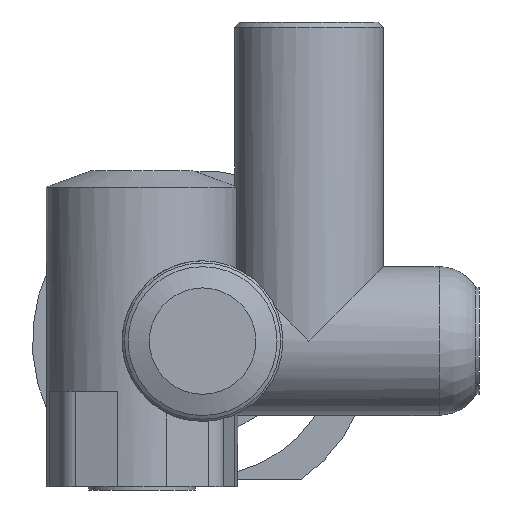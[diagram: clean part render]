
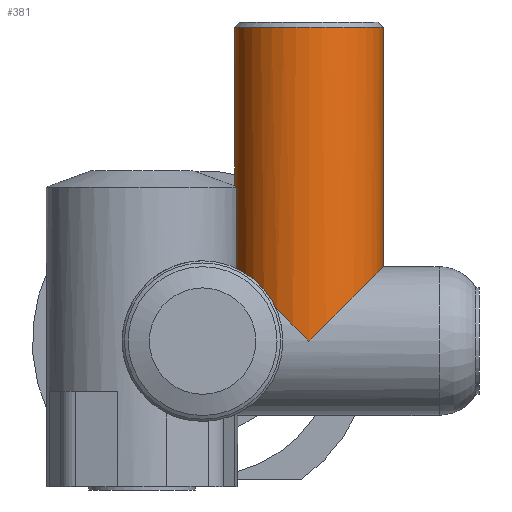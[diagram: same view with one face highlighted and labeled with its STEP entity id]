
A CAD part, front view. The second image highlights one B-rep face of the part: STEP entity #381.
In plain terms, the highlighted cylindrical face has radius 70 mm (diameter 140 mm), a full revolution.
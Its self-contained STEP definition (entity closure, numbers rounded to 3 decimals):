
#381=ADVANCED_FACE('',(#1078,#1080),#1082,.T.);
#1078=FACE_OUTER_BOUND('',#1079,.T.);
#1079=EDGE_LOOP('',(#1640));
#1080=FACE_BOUND('',#1081,.T.);
#1081=EDGE_LOOP('',(#1641,#1642,#1643,#1644,#1645,#1646,#1647));
#1082=CYLINDRICAL_SURFACE('',#1083,70.);
#1083=AXIS2_PLACEMENT_3D('',#1084,#1085,#1086);
#1084=CARTESIAN_POINT('',(100.,0.,0.));
#1085=DIRECTION('',(0.,0.,1.));
#1086=DIRECTION('',(1.,0.,0.));
#1640=ORIENTED_EDGE('',*,*,#1913,.F.);
#1641=ORIENTED_EDGE('',*,*,#1912,.T.);
#1642=ORIENTED_EDGE('',*,*,#1911,.T.);
#1643=ORIENTED_EDGE('',*,*,#1845,.T.);
#1644=ORIENTED_EDGE('',*,*,#1914,.T.);
#1645=ORIENTED_EDGE('',*,*,#1842,.T.);
#1646=ORIENTED_EDGE('',*,*,#1901,.T.);
#1647=ORIENTED_EDGE('',*,*,#1900,.T.);
#1842=EDGE_CURVE('',#2074,#2072,#2075,.T.);
#1845=EDGE_CURVE('',#2080,#2078,#2081,.F.);
#1900=EDGE_CURVE('',#2174,#2175,#2176,.T.);
#1901=EDGE_CURVE('',#2072,#2174,#2177,.F.);
#1911=EDGE_CURVE('',#2194,#2080,#2195,.F.);
#1912=EDGE_CURVE('',#2175,#2194,#2196,.T.);
#1913=EDGE_CURVE('',#2197,#2197,#2198,.T.);
#1914=EDGE_CURVE('',#2078,#2074,#2199,.T.);
#2072=VERTEX_POINT('',#2791);
#2074=VERTEX_POINT('',#2834);
#2075=LINE('',#2835,#2836);
#2078=VERTEX_POINT('',#2843);
#2080=VERTEX_POINT('',#2848);
#2081=LINE('',#2849,#2850);
#2174=VERTEX_POINT('',#3543);
#2175=VERTEX_POINT('',#3544);
#2176=(BOUNDED_CURVE()B_SPLINE_CURVE(3,
(#3545,#3546,#3547,#3548),
.UNSPECIFIED.,.F.,.F.)B_SPLINE_CURVE_WITH_KNOTS((4,4),
(0.,1.),
.UNSPECIFIED.)CURVE()GEOMETRIC_REPRESENTATION_ITEM()RATIONAL_B_SPLINE_CURVE((1.,
0.805,0.805,1.))REPRESENTATION_ITEM(''));
#2177=(BOUNDED_CURVE()B_SPLINE_CURVE(3,
(#3549,#3550,#3551,#3552),
.UNSPECIFIED.,.F.,.F.)B_SPLINE_CURVE_WITH_KNOTS((4,4),
(0.,1.),
.UNSPECIFIED.)CURVE()GEOMETRIC_REPRESENTATION_ITEM()RATIONAL_B_SPLINE_CURVE((1.,
0.854,0.854,1.))REPRESENTATION_ITEM(''));
#2194=VERTEX_POINT('',#3658);
#2195=(BOUNDED_CURVE()B_SPLINE_CURVE(3,
(#3659,#3660,#3661,#3662),
.UNSPECIFIED.,.F.,.F.)B_SPLINE_CURVE_WITH_KNOTS((4,4),
(0.,1.),
.UNSPECIFIED.)CURVE()GEOMETRIC_REPRESENTATION_ITEM()RATIONAL_B_SPLINE_CURVE((1.,
0.854,0.854,1.))REPRESENTATION_ITEM(''));
#2196=(BOUNDED_CURVE()B_SPLINE_CURVE(3,
(#3663,#3664,#3665,#3666),
.UNSPECIFIED.,.F.,.F.)B_SPLINE_CURVE_WITH_KNOTS((4,4),
(0.,1.),
.UNSPECIFIED.)CURVE()GEOMETRIC_REPRESENTATION_ITEM()RATIONAL_B_SPLINE_CURVE((1.,
0.805,0.805,1.))REPRESENTATION_ITEM(''));
#2197=VERTEX_POINT('',#3667);
#2198=CIRCLE('',#3668,70.);
#2199=B_SPLINE_CURVE_WITH_KNOTS('',3,
(#3672,#3673,#3674,#3675,#3676,#3677,#3678,#3679,#3680,#3681,#3682,#3683,#3684,#3685,
#3686,#3687,#3688,#3689,#3690,#3691,#3692,#3693,#3694,#3695,#3696,#3697,#3698,#3699,
#3700,#3701,#3702,#3703,#3704,#3705,#3706,#3707),
.UNSPECIFIED.,.F.,.F.,
(4,1,1,1,1,1,1,1,1,1,1,1,1,1,1,1,1,1,1,1,1,1,1,1,1,1,1,1,1,1,1,1,1,4),
(0.,0.025,0.05,0.076,0.102,0.128,
0.154,0.181,0.207,0.234,0.262,
0.289,0.318,0.346,0.376,0.406,
0.437,0.467,0.499,0.5,0.531,
0.564,0.597,0.631,0.666,0.702,
0.738,0.774,0.811,0.849,0.886,
0.924,0.962,1.),
.UNSPECIFIED.);
#2791=CARTESIAN_POINT('',(31.691,-15.294,68.309));
#2834=CARTESIAN_POINT('',(31.691,-15.294,144.713));
#2835=CARTESIAN_POINT('',(31.691,-15.294,144.713));
#2836=VECTOR('',#2837,1.);
#2837=DIRECTION('',(0.,0.,-1.));
#2843=CARTESIAN_POINT('',(31.691,15.294,144.713));
#2848=CARTESIAN_POINT('',(31.691,15.294,68.309));
#2849=CARTESIAN_POINT('',(31.691,15.294,144.713));
#2850=VECTOR('',#2851,1.);
#2851=DIRECTION('',(0.,0.,-1.));
#3543=CARTESIAN_POINT('',(100.,-70.,0.));
#3544=CARTESIAN_POINT('',(170.,0.,70.));
#3545=CARTESIAN_POINT('',(100.,-70.,0.));
#3546=CARTESIAN_POINT('',(141.005,-70.,41.005));
#3547=CARTESIAN_POINT('',(170.,-41.005,70.));
#3548=CARTESIAN_POINT('',(170.,0.,70.));
#3549=CARTESIAN_POINT('',(100.,-70.,0.));
#3550=CARTESIAN_POINT('',(65.829,-70.,34.171));
#3551=CARTESIAN_POINT('',(39.157,-48.639,60.843));
#3552=CARTESIAN_POINT('',(31.691,-15.294,68.309));
#3658=CARTESIAN_POINT('',(100.,70.,0.));
#3659=CARTESIAN_POINT('',(31.691,15.294,68.309));
#3660=CARTESIAN_POINT('',(39.157,48.639,60.843));
#3661=CARTESIAN_POINT('',(65.829,70.,34.171));
#3662=CARTESIAN_POINT('',(100.,70.,0.));
#3663=CARTESIAN_POINT('',(170.,0.,70.));
#3664=CARTESIAN_POINT('',(170.,41.005,70.));
#3665=CARTESIAN_POINT('',(141.005,70.,41.005));
#3666=CARTESIAN_POINT('',(100.,70.,0.));
#3667=CARTESIAN_POINT('',(170.,0.,295.));
#3668=AXIS2_PLACEMENT_3D('',#3669,#3670,#3671);
#3669=CARTESIAN_POINT('',(100.,0.,295.));
#3670=DIRECTION('',(0.,0.,1.));
#3671=DIRECTION('',(1.,0.,0.));
#3672=CARTESIAN_POINT('',(31.691,15.294,144.713));
#3673=CARTESIAN_POINT('',(31.635,15.043,144.749));
#3674=CARTESIAN_POINT('',(31.525,14.54,144.819));
#3675=CARTESIAN_POINT('',(31.368,13.78,144.919));
#3676=CARTESIAN_POINT('',(31.218,13.011,145.015));
#3677=CARTESIAN_POINT('',(31.076,12.233,145.106));
#3678=CARTESIAN_POINT('',(30.94,11.445,145.193));
#3679=CARTESIAN_POINT('',(30.813,10.647,145.276));
#3680=CARTESIAN_POINT('',(30.693,9.838,145.353));
#3681=CARTESIAN_POINT('',(30.582,9.021,145.425));
#3682=CARTESIAN_POINT('',(30.479,8.192,145.492));
#3683=CARTESIAN_POINT('',(30.386,7.353,145.553));
#3684=CARTESIAN_POINT('',(30.3,6.497,145.608));
#3685=CARTESIAN_POINT('',(30.225,5.626,145.658));
#3686=CARTESIAN_POINT('',(30.158,4.736,145.701));
#3687=CARTESIAN_POINT('',(30.103,3.828,145.738));
#3688=CARTESIAN_POINT('',(30.058,2.9,145.767));
#3689=CARTESIAN_POINT('',(30.025,1.959,145.789));
#3690=CARTESIAN_POINT('',(30.005,1.002,145.802));
#3691=CARTESIAN_POINT('',(30.,0.348,145.805));
#3692=CARTESIAN_POINT('',(30.,-0.306,145.805));
#3693=CARTESIAN_POINT('',(30.004,-0.975,145.802));
#3694=CARTESIAN_POINT('',(30.025,-1.975,145.788));
#3695=CARTESIAN_POINT('',(30.062,-3.013,145.764));
#3696=CARTESIAN_POINT('',(30.116,-4.07,145.729));
#3697=CARTESIAN_POINT('',(30.187,-5.149,145.683));
#3698=CARTESIAN_POINT('',(30.276,-6.242,145.624));
#3699=CARTESIAN_POINT('',(30.384,-7.349,145.554));
#3700=CARTESIAN_POINT('',(30.511,-8.465,145.471));
#3701=CARTESIAN_POINT('',(30.657,-9.593,145.376));
#3702=CARTESIAN_POINT('',(30.824,-10.729,145.268));
#3703=CARTESIAN_POINT('',(31.011,-11.871,145.148));
#3704=CARTESIAN_POINT('',(31.217,-13.014,145.015));
#3705=CARTESIAN_POINT('',(31.443,-14.157,144.871));
#3706=CARTESIAN_POINT('',(31.606,-14.915,144.767));
#3707=CARTESIAN_POINT('',(31.691,-15.294,144.713));
